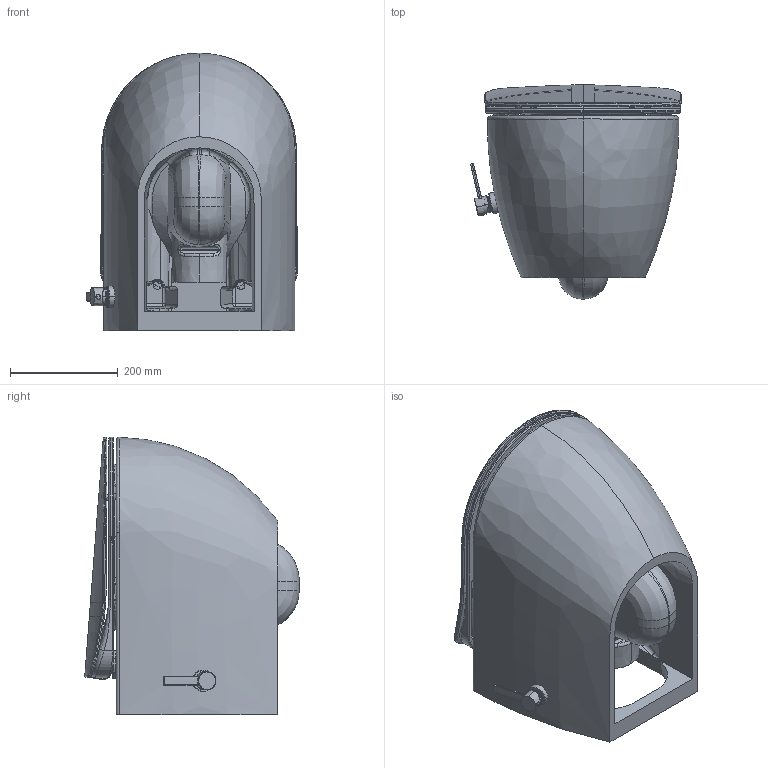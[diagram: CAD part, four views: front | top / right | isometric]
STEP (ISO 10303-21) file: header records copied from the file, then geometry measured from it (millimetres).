
FILE_DESCRIPTION (( 'STEP AP203' ), '1' );
FILE_NAME ('FE320-34CB00E-0001_SON.STEP', '2022-04-05T08:31:12', ( '' ), ( '' ), 'SwSTEP 2.0', 'SolidWorks 2021', '' );
FILE_SCHEMA (( 'CONFIG_CONTROL_DESIGN' ));
Products named in the file (1): FE320-34CB00E-0001_SON
Bounding box: 391.37 x 397.99 x 514.95 mm (x, y, z)
Volume: 24177582.5 mm3; surface area: 1794299.8 mm2
Topology: 33 solids, 33 shells, 1507 faces, 3644 edges, 2256 vertices
Faces by surface type: bspline 508, cylinder 481, plane 344, torus 88, cone 63, sphere 23
Entity records: 185952 total; most frequent: CARTESIAN_POINT 154634, ORIENTED_EDGE 7200, DIRECTION 5472, EDGE_CURVE 3600, VERTEX_POINT 2256, AXIS2_PLACEMENT_3D 2229, EDGE_LOOP 1648, FACE_OUTER_BOUND 1507
